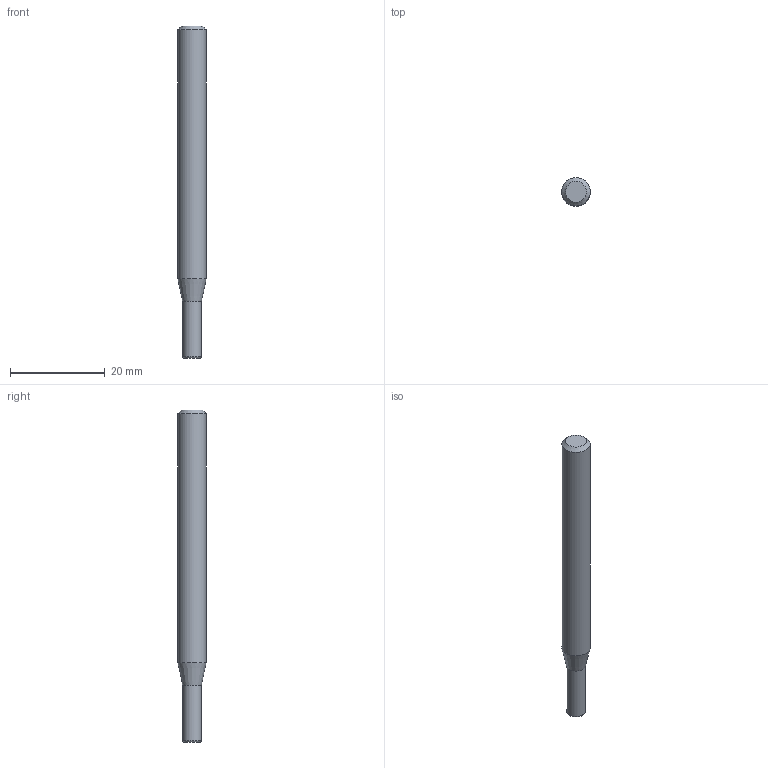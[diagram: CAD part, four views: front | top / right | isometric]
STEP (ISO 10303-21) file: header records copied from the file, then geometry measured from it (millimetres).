
FILE_DESCRIPTION((''),'2;1');
FILE_NAME('C:\Users\nsx150\AppData\Local\Temp\Mastercam 2021\03UJLO2QV3\TEMP.step','2023-09-20T09:29:34',(''),(''),'STEP Write','Mastercam 2021 ... CNC Software, Inc.','');
FILE_SCHEMA(('AUTOMOTIVE_DESIGN'));
Length unit declared in the file: millimetre
Products named in the file (1): None
Bounding box: 6 x 6 x 70 mm (x, y, z)
Volume: 1745.6 mm3; surface area: 1285.6 mm2
Topology: 2 solids, 2 shells, 9 faces, 12 edges, 7 vertices
Faces by surface type: plane 4, cylinder 2, cone 2, torus 1
Full cylindrical faces by diameter (mm): 4 x1, 6 x1
Entity records: 211 total; most frequent: DIRECTION 36, CARTESIAN_POINT 25, AXIS2_PLACEMENT_3D 18, ORIENTED_EDGE 14, EDGE_LOOP 14, STYLED_ITEM 12, ADVANCED_FACE 9, FACE_BOUND 8
